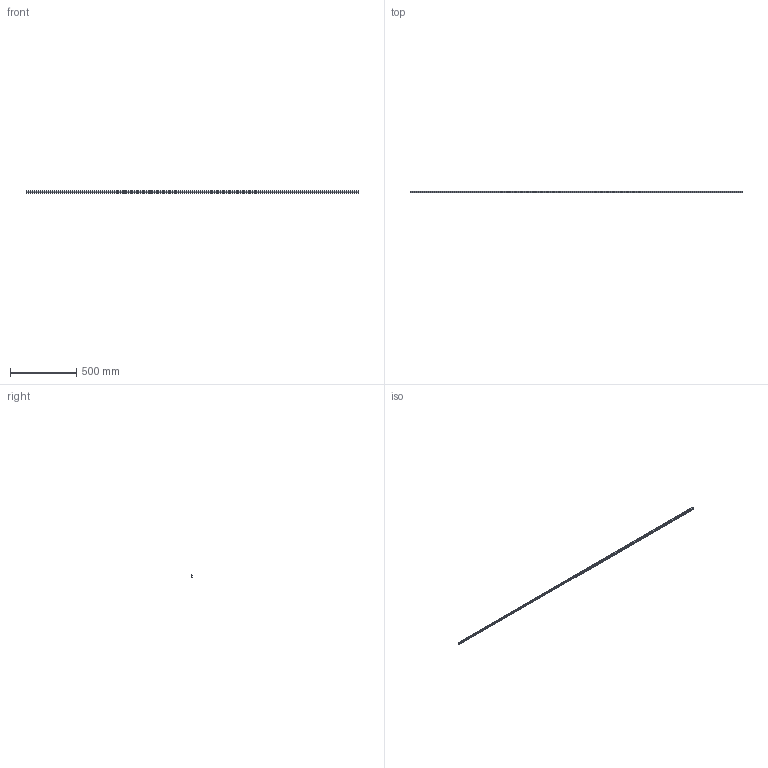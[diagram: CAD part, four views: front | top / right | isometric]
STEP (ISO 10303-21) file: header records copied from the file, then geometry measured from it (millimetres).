
FILE_DESCRIPTION (( 'STEP AP203' ), '1' );
FILE_NAME ('2000533_Profil Derby II_2500.STEP', '2021-01-21T06:02:49', ( '' ), ( '' ), 'SwSTEP 2.0', 'SolidWorks 2018', '' );
FILE_SCHEMA (( 'CONFIG_CONTROL_DESIGN' ));
Length unit declared in the file: millimetre
Products named in the file (1): 2000533_Profil Derby II_2500
Bounding box: 2500 x 12.76 x 19 mm (x, y, z)
Volume: 133257.1 mm3; surface area: 208843.6 mm2
Topology: 1 solids, 1 shells, 47 faces, 135 edges, 90 vertices
Faces by surface type: cylinder 25, plane 22
Entity records: 1636 total; most frequent: DIRECTION 281, CARTESIAN_POINT 273, ORIENTED_EDGE 270, EDGE_CURVE 135, AXIS2_PLACEMENT_3D 98, VERTEX_POINT 90, VECTOR 85, LINE 85
